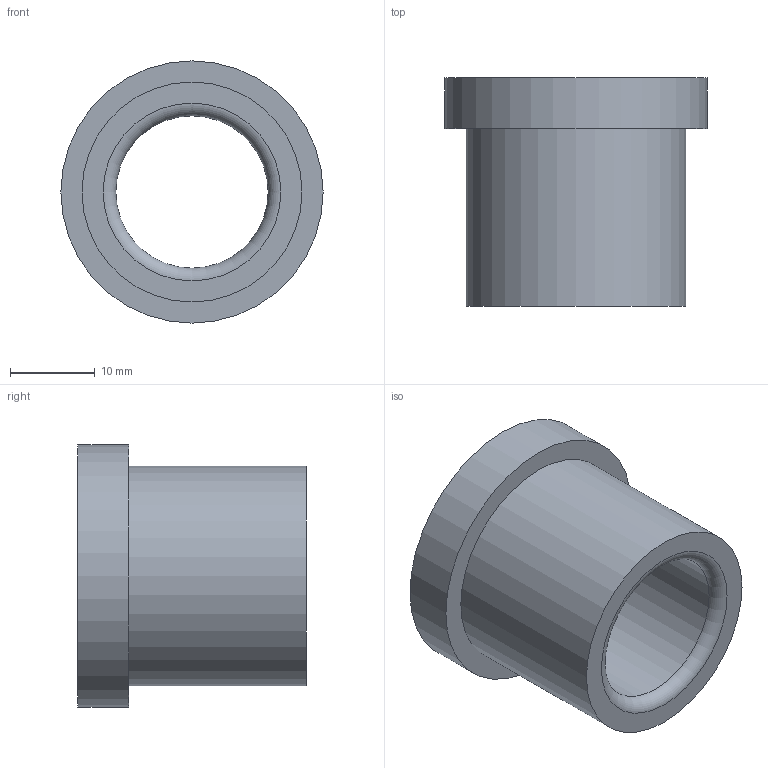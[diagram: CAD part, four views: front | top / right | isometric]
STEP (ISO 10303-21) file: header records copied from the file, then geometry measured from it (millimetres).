
FILE_DESCRIPTION(/* description */ ('STEP AP214'),/* implementation_level */ '2;1');
FILE_NAME(/* name */ '03_12_17917',/* time_stamp */ '2023-06-15T11:35:29+02:00',/* author */ ('License CC BY-ND 4.0'),/* organization */ ('CADENAS'),/* preprocessor_version */ 'ST-DEVELOPER v19.3',/* originating_system */ 'PARTsolutions',/* authorisation */ ' ');
FILE_SCHEMA (('AUTOMOTIVE_DESIGN {1 0 10303 214 3 1 1}'));
Length unit declared in the file: millimetre
Products named in the file (1): VA_Bushing_17917
Bounding box: 31 x 27 x 31 mm (x, y, z)
Volume: 8656.8 mm3; surface area: 4765.2 mm2
Topology: 1 solids, 1 shells, 10 faces, 16 edges, 10 vertices
Faces by surface type: cylinder 4, plane 4, torus 2
Full cylindrical faces by diameter (mm): 18 x1, 18.6 x1, 26 x1, 31 x1
Entity records: 302 total; most frequent: DIRECTION 42, CARTESIAN_POINT 31, AXIS2_PLACEMENT_3D 21, ORIENTED_EDGE 20, EDGE_LOOP 20, FACE_BOUND 20, EDGE_CURVE 10, VERTEX_POINT 10
